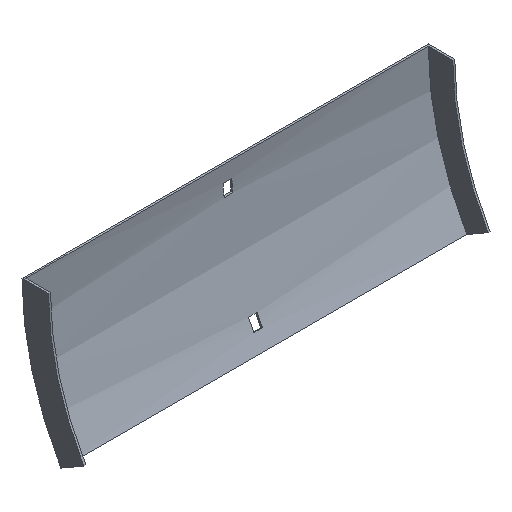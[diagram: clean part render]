
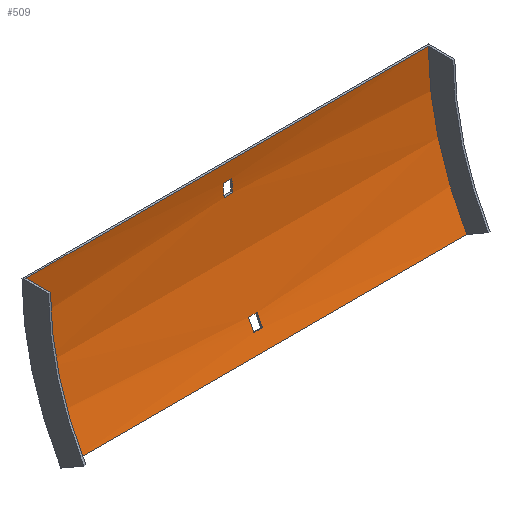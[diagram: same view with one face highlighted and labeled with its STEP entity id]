
A CAD part, isometric view. The second image highlights one B-rep face of the part: STEP entity #509.
In plain terms, the highlighted cylindrical face has radius 217.5 mm (diameter 435 mm), a partial arc.
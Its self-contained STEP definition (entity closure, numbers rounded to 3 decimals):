
#1 = ORIENTED_EDGE ( 'NONE', *, *, #57, .T. ) ;
#4 = ORIENTED_EDGE ( 'NONE', *, *, #250, .F. ) ;
#7 = VERTEX_POINT ( 'NONE', #12 ) ;
#9 = AXIS2_PLACEMENT_3D ( 'NONE', #522, #473, #156 ) ;
#12 = CARTESIAN_POINT ( 'NONE',  ( 3.25, -1.831, -12. ) ) ;
#26 = DIRECTION ( 'NONE',  ( 0., 0., -1. ) ) ;
#34 = EDGE_CURVE ( 'NONE', #354, #151, #384, .T. ) ;
#45 = AXIS2_PLACEMENT_3D ( 'NONE', #152, #52, #376 ) ;
#47 = EDGE_CURVE ( 'NONE', #309, #130, #513, .T. ) ;
#49 = VECTOR ( 'NONE', #328, 1000. ) ;
#52 = DIRECTION ( 'NONE',  ( -1., 0., 0. ) ) ;
#55 = CARTESIAN_POINT ( 'NONE',  ( 152., -30.639, -108.75 ) ) ;
#56 = CARTESIAN_POINT ( 'NONE',  ( -3.25, -2.516, -21. ) ) ;
#57 = EDGE_CURVE ( 'NONE', #270, #130, #335, .T. ) ;
#59 = DIRECTION ( 'NONE',  ( -1., 0., 0. ) ) ;
#67 = DIRECTION ( 'NONE',  ( 0., 0., 1. ) ) ;
#68 = DIRECTION ( 'NONE',  ( 0., 0., -1. ) ) ;
#72 = CARTESIAN_POINT ( 'NONE',  ( 3.25, -24.926, -98.192 ) ) ;
#75 = VECTOR ( 'NONE', #394, 1000. ) ;
#76 = VERTEX_POINT ( 'NONE', #203 ) ;
#81 = EDGE_CURVE ( 'NONE', #505, #270, #518, .T. ) ;
#82 = CARTESIAN_POINT ( 'NONE',  ( 3.25, -2.516, -21. ) ) ;
#88 = VERTEX_POINT ( 'NONE', #56 ) ;
#99 = VECTOR ( 'NONE', #493, 1000. ) ;
#100 = CARTESIAN_POINT ( 'NONE',  ( 3.25, -21.02, -90.055 ) ) ;
#110 = LINE ( 'NONE', #247, #318 ) ;
#117 = ORIENTED_EDGE ( 'NONE', *, *, #401, .F. ) ;
#118 = CARTESIAN_POINT ( 'NONE',  ( 3.25, -219., 0. ) ) ;
#128 = CARTESIAN_POINT ( 'NONE',  ( -152., -30.639, -108.75 ) ) ;
#130 = VERTEX_POINT ( 'NONE', #211 ) ;
#133 = CARTESIAN_POINT ( 'NONE',  ( 153.5, -1.831, -12. ) ) ;
#151 = VERTEX_POINT ( 'NONE', #169 ) ;
#152 = CARTESIAN_POINT ( 'NONE',  ( 153.5, -219., 0. ) ) ;
#156 = DIRECTION ( 'NONE',  ( 0., 0., 1. ) ) ;
#163 = CARTESIAN_POINT ( 'NONE',  ( 152., -219., 0. ) ) ;
#168 = LINE ( 'NONE', #544, #99 ) ;
#169 = CARTESIAN_POINT ( 'NONE',  ( -3.25, -24.926, -98.192 ) ) ;
#191 = FACE_BOUND ( 'NONE', #469, .T. ) ;
#203 = CARTESIAN_POINT ( 'NONE',  ( -3.25, -1.831, -12. ) ) ;
#205 = DIRECTION ( 'NONE',  ( 1., 0., 0. ) ) ;
#206 = AXIS2_PLACEMENT_3D ( 'NONE', #582, #296, #68 ) ;
#211 = CARTESIAN_POINT ( 'NONE',  ( -152., -1.5, 0. ) ) ;
#228 = ORIENTED_EDGE ( 'NONE', *, *, #605, .F. ) ;
#230 = AXIS2_PLACEMENT_3D ( 'NONE', #500, #494, #406 ) ;
#235 = FACE_OUTER_BOUND ( 'NONE', #448, .T. ) ;
#247 = CARTESIAN_POINT ( 'NONE',  ( 152., -30.639, -108.75 ) ) ;
#250 = EDGE_CURVE ( 'NONE', #7, #76, #269, .T. ) ;
#252 = AXIS2_PLACEMENT_3D ( 'NONE', #163, #532, #388 ) ;
#253 = DIRECTION ( 'NONE',  ( -1., 0., 0. ) ) ;
#268 = ORIENTED_EDGE ( 'NONE', *, *, #47, .F. ) ;
#269 = LINE ( 'NONE', #133, #339 ) ;
#270 = VERTEX_POINT ( 'NONE', #441 ) ;
#278 = VERTEX_POINT ( 'NONE', #82 ) ;
#287 = EDGE_CURVE ( 'NONE', #278, #7, #439, .T. ) ;
#291 = ORIENTED_EDGE ( 'NONE', *, *, #287, .F. ) ;
#292 = CARTESIAN_POINT ( 'NONE',  ( 3.25, -219., 0. ) ) ;
#296 = DIRECTION ( 'NONE',  ( 1., 0., 0. ) ) ;
#309 = VERTEX_POINT ( 'NONE', #128 ) ;
#313 = ORIENTED_EDGE ( 'NONE', *, *, #34, .T. ) ;
#318 = VECTOR ( 'NONE', #397, 1000. ) ;
#319 = DIRECTION ( 'NONE',  ( -1., 0., 0. ) ) ;
#323 = AXIS2_PLACEMENT_3D ( 'NONE', #292, #205, #26 ) ;
#328 = DIRECTION ( 'NONE',  ( -1., 0., 0. ) ) ;
#332 = ORIENTED_EDGE ( 'NONE', *, *, #375, .T. ) ;
#335 = LINE ( 'NONE', #471, #606 ) ;
#339 = VECTOR ( 'NONE', #319, 1000. ) ;
#354 = VERTEX_POINT ( 'NONE', #72 ) ;
#375 = EDGE_CURVE ( 'NONE', #424, #354, #455, .T. ) ;
#376 = DIRECTION ( 'NONE',  ( 0., 0., 1. ) ) ;
#384 = LINE ( 'NONE', #537, #49 ) ;
#385 = ORIENTED_EDGE ( 'NONE', *, *, #580, .F. ) ;
#388 = DIRECTION ( 'NONE',  ( 0., 0., 1. ) ) ;
#394 = DIRECTION ( 'NONE',  ( 1., 0., 0. ) ) ;
#397 = DIRECTION ( 'NONE',  ( -1., 0., 0. ) ) ;
#401 = EDGE_CURVE ( 'NONE', #505, #309, #110, .T. ) ;
#404 = AXIS2_PLACEMENT_3D ( 'NONE', #118, #253, #67 ) ;
#406 = DIRECTION ( 'NONE',  ( 0., 0., 1. ) ) ;
#412 = EDGE_CURVE ( 'NONE', #543, #424, #168, .T. ) ;
#424 = VERTEX_POINT ( 'NONE', #100 ) ;
#429 = FACE_BOUND ( 'NONE', #571, .T. ) ;
#432 = ORIENTED_EDGE ( 'NONE', *, *, #559, .T. ) ;
#439 = CIRCLE ( 'NONE', #323, 217.5 ) ;
#441 = CARTESIAN_POINT ( 'NONE',  ( 152., -1.5, 0. ) ) ;
#448 = EDGE_LOOP ( 'NONE', ( #268, #117, #598, #1 ) ) ;
#455 = CIRCLE ( 'NONE', #404, 217.5 ) ;
#466 = CYLINDRICAL_SURFACE ( 'NONE', #45, 217.5 ) ;
#469 = EDGE_LOOP ( 'NONE', ( #228, #4, #291, #385 ) ) ;
#471 = CARTESIAN_POINT ( 'NONE',  ( 152., -1.5, 0. ) ) ;
#473 = DIRECTION ( 'NONE',  ( 1., 0., 0. ) ) ;
#491 = CIRCLE ( 'NONE', #230, 217.5 ) ;
#493 = DIRECTION ( 'NONE',  ( 1., 0., 0. ) ) ;
#494 = DIRECTION ( 'NONE',  ( -1., 0., 0. ) ) ;
#500 = CARTESIAN_POINT ( 'NONE',  ( -3.25, -219., 0. ) ) ;
#502 = ORIENTED_EDGE ( 'NONE', *, *, #412, .T. ) ;
#505 = VERTEX_POINT ( 'NONE', #55 ) ;
#507 = CIRCLE ( 'NONE', #206, 217.5 ) ;
#509 = ADVANCED_FACE ( 'NONE', ( #191, #235, #429 ), #466, .F. ) ;
#513 = CIRCLE ( 'NONE', #9, 217.5 ) ;
#518 = CIRCLE ( 'NONE', #252, 217.5 ) ;
#522 = CARTESIAN_POINT ( 'NONE',  ( -152., -219., 0. ) ) ;
#532 = DIRECTION ( 'NONE',  ( 1., 0., 0. ) ) ;
#536 = LINE ( 'NONE', #545, #75 ) ;
#537 = CARTESIAN_POINT ( 'NONE',  ( 153.5, -24.926, -98.192 ) ) ;
#543 = VERTEX_POINT ( 'NONE', #573 ) ;
#544 = CARTESIAN_POINT ( 'NONE',  ( 153.5, -21.02, -90.055 ) ) ;
#545 = CARTESIAN_POINT ( 'NONE',  ( 153.5, -2.516, -21. ) ) ;
#559 = EDGE_CURVE ( 'NONE', #151, #543, #507, .T. ) ;
#571 = EDGE_LOOP ( 'NONE', ( #313, #432, #502, #332 ) ) ;
#573 = CARTESIAN_POINT ( 'NONE',  ( -3.25, -21.02, -90.055 ) ) ;
#580 = EDGE_CURVE ( 'NONE', #88, #278, #536, .T. ) ;
#582 = CARTESIAN_POINT ( 'NONE',  ( -3.25, -219., 0. ) ) ;
#598 = ORIENTED_EDGE ( 'NONE', *, *, #81, .T. ) ;
#605 = EDGE_CURVE ( 'NONE', #76, #88, #491, .T. ) ;
#606 = VECTOR ( 'NONE', #59, 1000. ) ;
